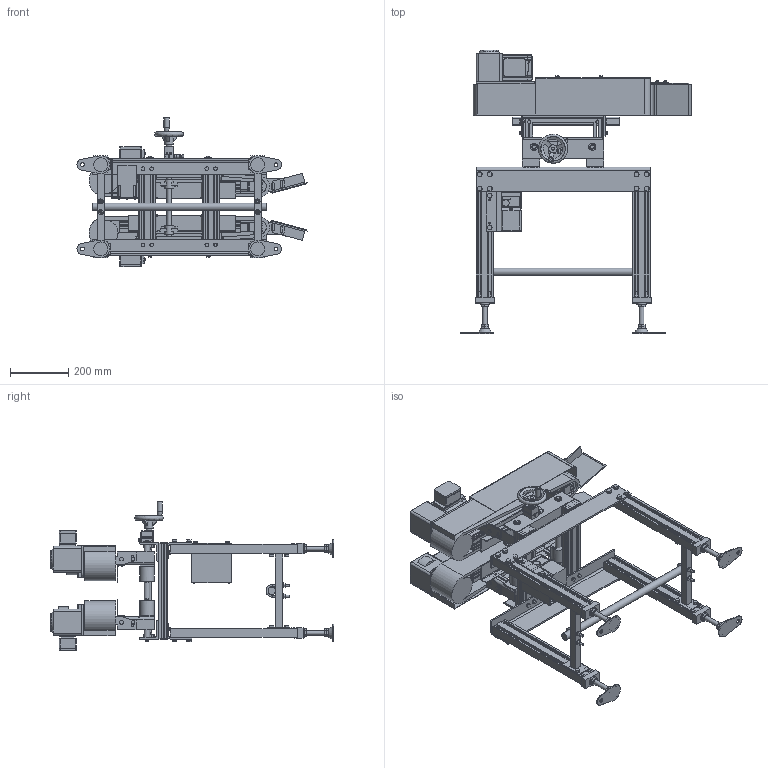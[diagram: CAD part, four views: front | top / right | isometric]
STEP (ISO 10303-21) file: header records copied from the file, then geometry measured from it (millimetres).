
FILE_DESCRIPTION (( 'STEP AP214' ), '1' );
FILE_NAME ('SWD-SBH3-OP.STEP', '2022-09-29T09:18:12', ( '' ), ( '' ), 'SwSTEP 2.0', 'SolidWorks 2017', '' );
FILE_SCHEMA (( 'AUTOMOTIVE_DESIGN' ));
Length unit declared in the file: millimetre
Products named in the file (6): SWD-SBH3-OP(Base+Leg); SWD-SBH-OP-SBH3-Sprt(SlideL)(WEB); SWD-SBH3-OP; SWD-SBH-OP-SBH3(L); SWD-SBH-OP-SBH3-Sprt(SlideR)(WEB); SWD-SBH-OP-SBH3(R)
Assembly tree (5 placements, depth 2):
  SWD-SBH3-OP
    SWD-SBH3-OP(Base+Leg)
    SWD-SBH-OP-SBH3(R)
    SWD-SBH-OP-SBH3(L)
    SWD-SBH-OP-SBH3-Sprt(SlideR)(WEB)
    SWD-SBH-OP-SBH3-Sprt(SlideL)(WEB)
Bounding box: 792.14 x 974.6 x 515.05 mm (x, y, z)
Volume: 19034930.4 mm3; surface area: 4737855 mm2
Topology: 86 solids, 86 shells, 3319 faces, 8295 edges, 5464 vertices
Faces by surface type: plane 2576, cylinder 679, cone 38, bspline 18, torus 8
Full cylindrical faces by diameter (mm): 1 x1, 3.242 x1, 4 x7, 4.134 x1, 4.5 x2, 4.6 x1, 5 x14, 6 x27, 6.2 x1, 6.5 x10, 7 x19, 7.6 x2, 8 x16, 9 x10, 9.2 x8, 10 x21, 11 x4, 12 x2, 12.2 x40, 12.5 x20, 13 x5, 14 x1, 14.421 x4, 15.4 x26, 16 x13, 17 x24, 18 x3, 19.8 x4, 19.9 x1, 20 x4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
Entity records: 97696 total; most frequent: CARTESIAN_POINT 18358, DIRECTION 15848, ORIENTED_EDGE 15498, EDGE_CURVE 7749, LINE 6080, VECTOR 6080, VERTEX_POINT 5304, AXIS2_PLACEMENT_3D 4884
